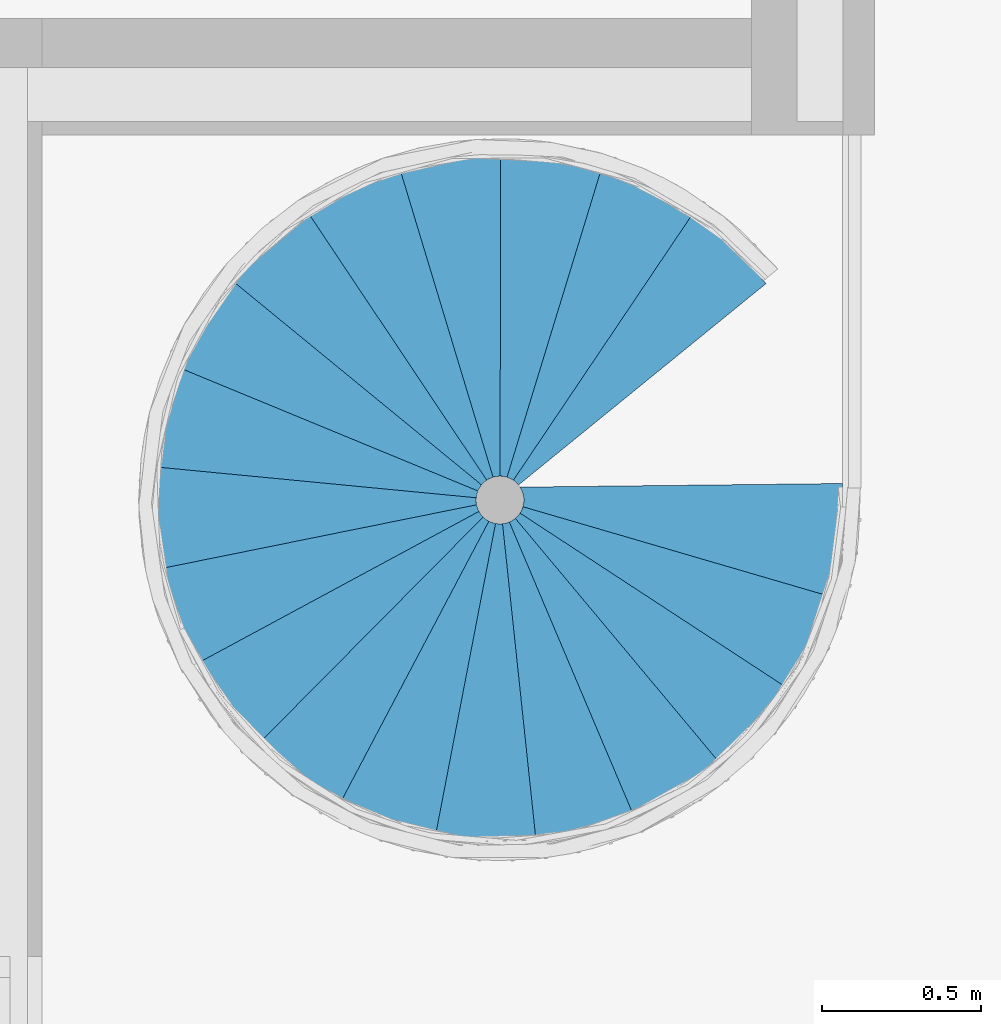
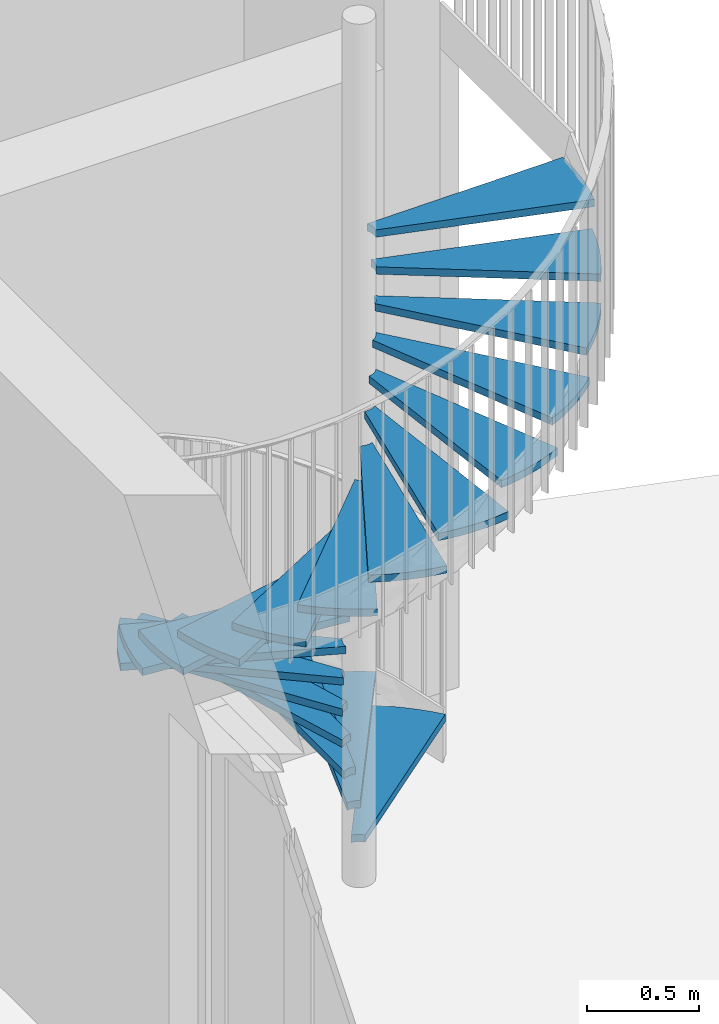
# One storey, part 14 of 21: 1 stair flight, 1 element without a shape of its own.
"""IFC2X3 building model written with IfcOpenShell, lengths in millimetres."""

from ifc_helpers import new_model, entity, si_unit, converted_unit, derived_unit, direction, frame, frame_2d, origin, place, context, subcontext, project, spatial, polyline, circle_curve, parameter, trimmed, segment, composite_curve, outline, extrude, material, element, aggregate, save


model = new_model("IFC2X3")

# Units and contexts
model_context = context("Model", 3, precision=0.01, world=origin(), true_north=direction((6.12303176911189e-17, 1.0)))
body_context = subcontext(model_context, "Body", "Model", "MODEL_VIEW")
ifc_project = project(units=[si_unit("LENGTHUNIT", "METRE", prefix="MILLI"), si_unit("AREAUNIT", "SQUARE_METRE"), si_unit("VOLUMEUNIT", "CUBIC_METRE"), converted_unit("PLANEANGLEUNIT", "DEGREE", entity("IfcRatioMeasure", 0.0174532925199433), si_unit("PLANEANGLEUNIT", "RADIAN"), dimensions=[0, 0, 0, 0, 0, 0, 0]), si_unit("MASSUNIT", "GRAM", prefix="KILO"), derived_unit("MASSDENSITYUNIT", [(si_unit("MASSUNIT", "GRAM", prefix="KILO"), 1), (si_unit("LENGTHUNIT", "METRE"), -3)]), si_unit("TIMEUNIT", "SECOND"), si_unit("FREQUENCYUNIT", "HERTZ"), si_unit("THERMODYNAMICTEMPERATUREUNIT", "DEGREE_CELSIUS"), derived_unit("THERMALTRANSMITTANCEUNIT", [(si_unit("MASSUNIT", "GRAM", prefix="KILO"), 1), (si_unit("THERMODYNAMICTEMPERATUREUNIT", "KELVIN"), -1), (si_unit("TIMEUNIT", "SECOND"), -3)]), derived_unit("VOLUMETRICFLOWRATEUNIT", [(si_unit("LENGTHUNIT", "METRE"), 3), (si_unit("TIMEUNIT", "SECOND"), -1)]), si_unit("ELECTRICCURRENTUNIT", "AMPERE"), si_unit("ELECTRICVOLTAGEUNIT", "VOLT"), si_unit("POWERUNIT", "WATT"), si_unit("FORCEUNIT", "NEWTON", prefix="KILO"), si_unit("ILLUMINANCEUNIT", "LUX"), si_unit("LUMINOUSFLUXUNIT", "LUMEN"), si_unit("LUMINOUSINTENSITYUNIT", "CANDELA"), derived_unit("USERDEFINED", [(si_unit("MASSUNIT", "GRAM", prefix="KILO"), -1), (si_unit("LENGTHUNIT", "METRE"), -2), (si_unit("TIMEUNIT", "SECOND"), 3), (si_unit("LUMINOUSFLUXUNIT", "LUMEN"), 1)]), derived_unit("LINEARVELOCITYUNIT", [(si_unit("LENGTHUNIT", "METRE"), 1), (si_unit("TIMEUNIT", "SECOND"), -1)]), si_unit("PRESSUREUNIT", "PASCAL"), derived_unit("USERDEFINED", [(si_unit("LENGTHUNIT", "METRE"), -2), (si_unit("MASSUNIT", "GRAM", prefix="KILO"), 1), (si_unit("TIMEUNIT", "SECOND"), -2)])], contexts=[model_context])

# Site, building, storey
site_placement = place(None, origin())
site = spatial("IfcSite", under=ifc_project, at=site_placement, Name="<Kadaster Gemeente>;<Kadaster nummer>;<Kadaster sectie>", CompositionType="ELEMENT")
building_placement = place(site_placement, origin())
building = spatial("IfcBuilding", under=site, at=building_placement, Name="JRCZ Middelburg", CompositionType="ELEMENT")
storey_placement = place(building_placement, origin())
storey = spatial("IfcBuildingStorey", under=building, at=storey_placement, Name="00 begane grond", CompositionType="ELEMENT", Elevation=0.0)

# Stair, stair flight
stair_placement = place(storey_placement, origin())
stair = element("IfcStair", 1, at=stair_placement, inside=storey, Name="Assembled Stair:Stair", ObjectType="Assembled Stair:RBM_24_ST_stalen vluchttrap", ShapeType="NOTDEFINED")
ifc_material = material(Name="RBM_h3_RVS")
stair_flight_placement = place(stair_placement, origin())
stair_flight = element("IfcStairFlight", 2, at=stair_flight_placement, material=ifc_material, Name="Assembled Stair:Stair:2925880 Run 1", ObjectType="Non-Monolithic Run:40 mm persrooster", NumberOfRiser=20, NumberOfTreads=19, RiserHeight=0.606955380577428, TreadLength=0.557742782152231, context=body_context, shape_type="SweptSolid", body=[
    extrude(outline(composite_curve([segment(polyline([(-371.303185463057, 348.093629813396), (211.752681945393, -483.102219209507)]), True, "CONTINUOUS"), segment(trimmed(circle_curve(frame_2d((-375.284208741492, 423.422843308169), x_axis=(1.0, 0.0)), 1080.0), [parameter(302.925814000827)], [parameter(321.969744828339)], True, "PARAMETER"), True, "CONTINUOUS"), segment(polyline([(475.416176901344, -241.940857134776), (-315.865673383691, 376.949446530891)]), True, "CONTINUOUS"), segment(trimmed(circle_curve(frame_2d((-375.284208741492, 423.422843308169), x_axis=(1.0, 0.0)), 75.4343353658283), [parameter(273.025172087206)], [parameter(321.969744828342)], True, "PARAMETER"), False, "CONTINUOUS")], self_intersect=False)), frame((19225.1762684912, 23464.5836777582, 145.0), z_axis=(0.0, 0.0, -1.0), x_axis=(0.999813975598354, 0.0192876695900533, 0.0)), (0.0, 0.0, -1.0), 40.0),
    extrude(outline(composite_curve([segment(polyline([(-253.911776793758, 441.094139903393), (61.9735131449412, -523.818896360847)]), True, "CONTINUOUS"), segment(trimmed(circle_curve(frame_2d((-235.795181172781, 514.320691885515), x_axis=(1.0, 0.0)), 1080.0), [parameter(286.004434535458)], [parameter(305.04836536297)], True, "PARAMETER"), True, "CONTINUOUS"), segment(polyline([(384.413942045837, -369.840290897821), (-192.475678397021, 452.565047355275)]), True, "CONTINUOUS"), segment(trimmed(circle_curve(frame_2d((-235.795181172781, 514.320691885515), x_axis=(1.0, 0.0)), 75.4343353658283), [parameter(256.103792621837)], [parameter(305.048365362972)], True, "PARAMETER"), False, "CONTINUOUS")], self_intersect=False)), frame((19083.9599816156, 23552.7741988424, 330.0), z_axis=(0.0, 0.0, -1.0), x_axis=(0.999813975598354, 0.0192876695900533, 0.0)), (0.0, 0.0, -1.0), 40.0),
    extrude(outline(composite_curve([segment(polyline([(-253.911776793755, 441.094139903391), (61.9735131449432, -523.818896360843)]), True, "CONTINUOUS"), segment(trimmed(circle_curve(frame_2d((-235.795181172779, 514.320691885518), x_axis=(1.0, 0.0)), 1080.0), [parameter(286.004434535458)], [parameter(305.04836536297)], True, "PARAMETER"), True, "CONTINUOUS"), segment(polyline([(384.413942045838, -369.840290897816), (-192.475678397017, 452.565047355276)]), True, "CONTINUOUS"), segment(trimmed(circle_curve(frame_2d((-235.795181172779, 514.320691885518), x_axis=(1.0, 0.0)), 75.4343353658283), [parameter(256.103792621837)], [parameter(305.048365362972)], True, "PARAMETER"), False, "CONTINUOUS")], self_intersect=False)), frame((18923.1889850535, 23596.0442156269, 515.0), z_axis=(0.0, 0.0, -1.0), x_axis=(0.950913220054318, 0.309457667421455, 0.0)), (0.0, 0.0, -1.0), 40.0),
    extrude(outline(composite_curve([segment(polyline([(-253.91177679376, 441.094139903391), (61.9735131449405, -523.818896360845)]), True, "CONTINUOUS"), segment(trimmed(circle_curve(frame_2d((-235.79518117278, 514.320691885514), x_axis=(1.0, 0.0)), 1080.0), [parameter(286.004434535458)], [parameter(305.04836536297)], True, "PARAMETER"), True, "CONTINUOUS"), segment(polyline([(384.413942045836, -369.840290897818), (-192.475678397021, 452.565047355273)]), True, "CONTINUOUS"), segment(trimmed(circle_curve(frame_2d((-235.79518117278, 514.320691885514), x_axis=(1.0, 0.0)), 75.4343353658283), [parameter(256.103792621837)], [parameter(305.048365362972)], True, "PARAMETER"), False, "CONTINUOUS")], self_intersect=False)), frame((18756.7844251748, 23590.646981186, 700.0), z_axis=(0.0, 0.0, -1.0), x_axis=(0.819672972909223, 0.572831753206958, 0.0)), (0.0, 0.0, -1.0), 40.0),
    extrude(outline(composite_curve([segment(polyline([(-253.911776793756, 441.094139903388), (61.9735131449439, -523.818896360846)]), True, "CONTINUOUS"), segment(trimmed(circle_curve(frame_2d((-235.795181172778, 514.320691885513), x_axis=(1.0, 0.0)), 1080.0), [parameter(286.004434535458)], [parameter(305.04836536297)], True, "PARAMETER"), True, "CONTINUOUS"), segment(polyline([(384.413942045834, -369.840290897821), (-192.475678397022, 452.565047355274)]), True, "CONTINUOUS"), segment(trimmed(circle_curve(frame_2d((-235.795181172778, 514.320691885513), x_axis=(1.0, 0.0)), 75.4343353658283), [parameter(256.103792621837)], [parameter(305.048365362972)], True, "PARAMETER"), False, "CONTINUOUS")], self_intersect=False)), frame((18599.155258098, 23537.0498415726, 885.0), z_axis=(0.0, 0.0, -1.0), x_axis=(0.617457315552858, 0.786604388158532, 0.0)), (0.0, 0.0, -1.0), 40.0),
    extrude(outline(composite_curve([segment(polyline([(-253.911776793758, 441.094139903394), (61.9735131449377, -523.818896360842)]), True, "CONTINUOUS"), segment(trimmed(circle_curve(frame_2d((-235.795181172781, 514.320691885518), x_axis=(1.0, 0.0)), 1080.0), [parameter(286.004434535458)], [parameter(305.04836536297)], True, "PARAMETER"), True, "CONTINUOUS"), segment(polyline([(384.413942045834, -369.840290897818), (-192.475678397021, 452.565047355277)]), True, "CONTINUOUS"), segment(trimmed(circle_curve(frame_2d((-235.795181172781, 514.320691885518), x_axis=(1.0, 0.0)), 75.4343353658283), [parameter(256.103792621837)], [parameter(305.048365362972)], True, "PARAMETER"), False, "CONTINUOUS")], self_intersect=False)), frame((18463.9505794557, 23439.8937683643, 1070.0), z_axis=(0.0, 0.0, -1.0), x_axis=(0.361776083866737, 0.932265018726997, 0.0)), (0.0, 0.0, -1.0), 40.0),
    extrude(outline(composite_curve([segment(polyline([(-253.911776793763, 441.094139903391), (61.9735131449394, -523.818896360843)]), True, "CONTINUOUS"), segment(trimmed(circle_curve(frame_2d((-235.795181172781, 514.320691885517), x_axis=(1.0, 0.0)), 1080.0), [parameter(286.004434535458)], [parameter(305.04836536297)], True, "PARAMETER"), True, "CONTINUOUS"), segment(polyline([(384.413942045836, -369.84029089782), (-192.475678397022, 452.565047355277)]), True, "CONTINUOUS"), segment(trimmed(circle_curve(frame_2d((-235.795181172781, 514.320691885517), x_axis=(1.0, 0.0)), 75.4343353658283), [parameter(256.103792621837)], [parameter(305.048365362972)], True, "PARAMETER"), False, "CONTINUOUS")], self_intersect=False)), frame((18362.8777504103, 23307.5914973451, 1255.0), z_axis=(0.0, 0.0, -1.0), x_axis=(0.0747686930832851, 0.997200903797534, 0.0)), (0.0, 0.0, -1.0), 40.0000000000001),
    extrude(outline(composite_curve([segment(polyline([(-253.911776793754, 441.094139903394), (61.973513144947, -523.818896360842)]), True, "CONTINUOUS"), segment(trimmed(circle_curve(frame_2d((-235.795181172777, 514.320691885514), x_axis=(1.0, 0.0)), 1080.0), [parameter(286.004434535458)], [parameter(305.04836536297)], True, "PARAMETER"), True, "CONTINUOUS"), segment(polyline([(384.413942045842, -369.840290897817), (-192.475678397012, 452.565047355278)]), True, "CONTINUOUS"), segment(trimmed(circle_curve(frame_2d((-235.795181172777, 514.320691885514), x_axis=(1.0, 0.0)), 75.4343353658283), [parameter(256.103792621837)], [parameter(305.048365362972)], True, "PARAMETER"), False, "CONTINUOUS")], self_intersect=False)), frame((18304.6886582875, 23151.5990704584, 1440.0), z_axis=(0.0, 0.0, -1.0), x_axis=(-0.21871291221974, 0.975789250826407, 0.0)), (0.0, 0.0, -1.0), 40.0000000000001),
    extrude(outline(composite_curve([segment(polyline([(-253.911776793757, 441.094139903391), (61.9735131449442, -523.818896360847)]), True, "CONTINUOUS"), segment(trimmed(circle_curve(frame_2d((-235.79518117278, 514.320691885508), x_axis=(1.0, 0.0)), 1080.0), [parameter(286.004434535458)], [parameter(305.04836536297)], True, "PARAMETER"), True, "CONTINUOUS"), segment(polyline([(384.413942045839, -369.840290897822), (-192.47567839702, 452.565047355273)]), True, "CONTINUOUS"), segment(trimmed(circle_curve(frame_2d((-235.79518117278, 514.320691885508), x_axis=(1.0, 0.0)), 75.4343353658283), [parameter(256.103792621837)], [parameter(305.048365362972)], True, "PARAMETER"), False, "CONTINUOUS")], self_intersect=False)), frame((18294.4218914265, 22985.4238581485, 1625.0), z_axis=(0.0, 0.0, -1.0), x_axis=(-0.493256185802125, 0.869884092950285, 0.0)), (0.0, 0.0, -1.0), 40.0000000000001),
    extrude(outline(composite_curve([segment(polyline([(576.788844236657, -194.342837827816), (-325.88141948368, 270.444295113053)]), True, "CONTINUOUS"), segment(trimmed(circle_curve(frame_2d((615.338386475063, -259.183193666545), x_axis=(1.0, 0.0)), 1080.0), [parameter(150.633398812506)], [parameter(152.755950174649)], True, "PARAMETER"), True, "CONTINUOUS"), segment(trimmed(circle_curve(frame_2d((615.338386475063, -259.183193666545), x_axis=(1.0, 0.0)), 1080.0), [parameter(152.755950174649)], [parameter(169.677329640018)], True, "PARAMETER"), True, "CONTINUOUS"), segment(polyline([(-447.180964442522, -65.6563765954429), (541.125015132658, -245.666002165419)]), True, "CONTINUOUS"), segment(trimmed(circle_curve(frame_2d((615.338386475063, -259.183193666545), x_axis=(1.0, 0.0)), 75.4343353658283), [parameter(120.732756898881)], [parameter(169.677329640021)], True, "PARAMETER"), False, "CONTINUOUS")], self_intersect=False)), frame((18247.9038329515, 22762.9978208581, 1810.0), z_axis=(0.0, 0.0, -1.0), x_axis=(0.999813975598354, 0.0192876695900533, 0.0)), (0.0, 0.0, -1.0), 40.0000000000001),
    extrude(outline(composite_curve([segment(polyline([(429.887042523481, -272.45616403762), (-298.421580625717, 434.938516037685)]), True, "CONTINUOUS"), segment(trimmed(circle_curve(frame_2d((447.895201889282, -345.709458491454), x_axis=(1.0, 0.0)), 1080.0), [parameter(133.712019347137)], [parameter(152.755950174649)], True, "PARAMETER"), True, "CONTINUOUS"), segment(polyline([(-512.294660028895, 148.694656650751), (380.829198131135, -311.177008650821)]), True, "CONTINUOUS"), segment(trimmed(circle_curve(frame_2d((447.895201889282, -345.709458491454), x_axis=(1.0, 0.0)), 75.4343353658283), [parameter(103.811377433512)], [parameter(152.755950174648)], True, "PARAMETER"), False, "CONTINUOUS")], self_intersect=False)), frame((18416.9847590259, 22679.7172408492, 1995.0), z_axis=(0.0, 0.0, -1.0), x_axis=(0.999813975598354, 0.0192876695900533, 0.0)), (0.0, 0.0, -1.0), 40.0000000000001),
    extrude(outline(composite_curve([segment(polyline([(429.887042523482, -272.456164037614), (-298.421580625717, 434.938516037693)]), True, "CONTINUOUS"), segment(trimmed(circle_curve(frame_2d((447.895201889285, -345.709458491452), x_axis=(1.0, 0.0)), 1080.0), [parameter(133.712019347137)], [parameter(152.755950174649)], True, "PARAMETER"), True, "CONTINUOUS"), segment(polyline([(-512.294660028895, 148.69465665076), (380.829198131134, -311.177008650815)]), True, "CONTINUOUS"), segment(trimmed(circle_curve(frame_2d((447.895201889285, -345.709458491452), x_axis=(1.0, 0.0)), 75.4343353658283), [parameter(103.811377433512)], [parameter(152.755950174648)], True, "PARAMETER"), False, "CONTINUOUS")], self_intersect=False)), frame((18539.2016856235, 22566.6569448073, 2180.0), z_axis=(0.0, 0.0, -1.0), x_axis=(0.950913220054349, 0.30945766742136, 0.0)), (0.0, 0.0, -1.0), 40.0000000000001),
    extrude(outline(composite_curve([segment(polyline([(429.887042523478, -272.45616403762), (-298.421580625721, 434.938516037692)]), True, "CONTINUOUS"), segment(trimmed(circle_curve(frame_2d((447.895201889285, -345.709458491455), x_axis=(1.0, 0.0)), 1080.0), [parameter(133.712019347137)], [parameter(152.755950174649)], True, "PARAMETER"), True, "CONTINUOUS"), segment(polyline([(-512.294660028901, 148.694656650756), (380.829198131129, -311.17700865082)]), True, "CONTINUOUS"), segment(trimmed(circle_curve(frame_2d((447.895201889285, -345.709458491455), x_axis=(1.0, 0.0)), 75.4343353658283), [parameter(103.811377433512)], [parameter(152.755950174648)], True, "PARAMETER"), False, "CONTINUOUS")], self_intersect=False)), frame((18689.0344751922, 22494.0639502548, 2365.0), z_axis=(0.0, 0.0, -1.0), x_axis=(0.819672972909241, 0.572831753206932, 0.0)), (0.0, 0.0, -1.0), 40.0000000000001),
    extrude(outline(composite_curve([segment(polyline([(429.887042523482, -272.456164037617), (-298.421580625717, 434.938516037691)]), True, "CONTINUOUS"), segment(trimmed(circle_curve(frame_2d((447.895201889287, -345.709458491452), x_axis=(1.0, 0.0)), 1080.0), [parameter(133.712019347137)], [parameter(152.755950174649)], True, "PARAMETER"), True, "CONTINUOUS"), segment(polyline([(-512.294660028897, 148.694656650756), (380.829198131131, -311.177008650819)]), True, "CONTINUOUS"), segment(trimmed(circle_curve(frame_2d((447.895201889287, -345.709458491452), x_axis=(1.0, 0.0)), 75.4343353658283), [parameter(103.811377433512)], [parameter(152.755950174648)], True, "PARAMETER"), False, "CONTINUOUS")], self_intersect=False)), frame((18853.5091197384, 22468.2240781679, 2550.0), z_axis=(0.0, 0.0, -1.0), x_axis=(0.617457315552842, 0.786604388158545, 0.0)), (0.0, 0.0, -1.0), 40.0000000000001),
    extrude(outline(composite_curve([segment(polyline([(429.88704252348, -272.456164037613), (-298.421580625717, 434.938516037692)]), True, "CONTINUOUS"), segment(trimmed(circle_curve(frame_2d((447.895201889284, -345.70945849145), x_axis=(1.0, 0.0)), 1080.0), [parameter(133.712019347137)], [parameter(152.755950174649)], True, "PARAMETER"), True, "CONTINUOUS"), segment(polyline([(-512.294660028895, 148.694656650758), (380.829198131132, -311.177008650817)]), True, "CONTINUOUS"), segment(trimmed(circle_curve(frame_2d((447.895201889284, -345.70945849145), x_axis=(1.0, 0.0)), 75.4343353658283), [parameter(103.811377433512)], [parameter(152.755950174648)], True, "PARAMETER"), False, "CONTINUOUS")], self_intersect=False)), frame((19018.3837743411, 22491.3748007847, 2735.0), z_axis=(0.0, 0.0, -1.0), x_axis=(0.361776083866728, 0.932265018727, 0.0)), (0.0, 0.0, -1.0), 40.0000000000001),
    extrude(outline(composite_curve([segment(polyline([(429.887042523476, -272.456164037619), (-298.421580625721, 434.938516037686)]), True, "CONTINUOUS"), segment(trimmed(circle_curve(frame_2d((447.895201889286, -345.709458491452), x_axis=(1.0, 0.0)), 1080.0), [parameter(133.712019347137)], [parameter(152.755950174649)], True, "PARAMETER"), True, "CONTINUOUS"), segment(polyline([(-512.294660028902, 148.694656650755), (380.829198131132, -311.177008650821)]), True, "CONTINUOUS"), segment(trimmed(circle_curve(frame_2d((447.895201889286, -345.709458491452), x_axis=(1.0, 0.0)), 75.4343353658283), [parameter(103.811377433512)], [parameter(152.755950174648)], True, "PARAMETER"), False, "CONTINUOUS")], self_intersect=False)), frame((19169.3819572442, 22561.511499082, 2920.0), z_axis=(0.0, 0.0, -1.0), x_axis=(0.0747686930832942, 0.997200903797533, 0.0)), (0.0, 0.0, -1.0), 40.0000000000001),
    extrude(outline(composite_curve([segment(polyline([(429.88704252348, -272.456164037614), (-298.421580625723, 434.938516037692)]), True, "CONTINUOUS"), segment(trimmed(circle_curve(frame_2d((447.895201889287, -345.709458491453), x_axis=(1.0, 0.0)), 1080.0), [parameter(133.712019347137)], [parameter(152.755950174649)], True, "PARAMETER"), True, "CONTINUOUS"), segment(polyline([(-512.294660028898, 148.694656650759), (380.82919813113, -311.177008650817)]), True, "CONTINUOUS"), segment(trimmed(circle_curve(frame_2d((447.895201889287, -345.709458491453), x_axis=(1.0, 0.0)), 75.4343353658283), [parameter(103.811377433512)], [parameter(152.755950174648)], True, "PARAMETER"), False, "CONTINUOUS")], self_intersect=False)), frame((19293.4287491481, 22672.5610425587, 3105.0), z_axis=(0.0, 0.0, -1.0), x_axis=(-0.218712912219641, 0.975789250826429, 0.0)), (0.0, 0.0, -1.0), 40.0000000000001),
    extrude(outline(composite_curve([segment(polyline([(429.887042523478, -272.456164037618), (-298.421580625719, 434.938516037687)]), True, "CONTINUOUS"), segment(trimmed(circle_curve(frame_2d((447.895201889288, -345.709458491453), x_axis=(1.0, 0.0)), 1080.0), [parameter(133.712019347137)], [parameter(152.755950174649)], True, "PARAMETER"), True, "CONTINUOUS"), segment(polyline([(-512.294660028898, 148.694656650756), (380.829198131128, -311.177008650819)]), True, "CONTINUOUS"), segment(trimmed(circle_curve(frame_2d((447.895201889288, -345.709458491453), x_axis=(1.0, 0.0)), 75.4343353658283), [parameter(103.811377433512)], [parameter(152.755950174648)], True, "PARAMETER"), False, "CONTINUOUS")], self_intersect=False)), frame((19379.7829493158, 22814.9076610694, 3290.0), z_axis=(0.0, 0.0, -1.0), x_axis=(-0.493256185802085, 0.869884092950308, 0.0)), (0.0, 0.0, -1.0), 40.0000000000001),
    extrude(outline(composite_curve([segment(polyline([(429.887042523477, -272.456164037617), (-298.421580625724, 434.938516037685)]), True, "CONTINUOUS"), segment(trimmed(circle_curve(frame_2d((447.895201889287, -345.709458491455), x_axis=(1.0, 0.0)), 1080.0), [parameter(133.712019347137)], [parameter(152.755950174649)], True, "PARAMETER"), True, "CONTINUOUS"), segment(polyline([(-512.294660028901, 148.694656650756), (380.82919813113, -311.177008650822)]), True, "CONTINUOUS"), segment(trimmed(circle_curve(frame_2d((447.895201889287, -345.709458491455), x_axis=(1.0, 0.0)), 75.4343353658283), [parameter(103.811377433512)], [parameter(152.755950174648)], True, "PARAMETER"), False, "CONTINUOUS")], self_intersect=False)), frame((19420.9671551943, 22976.2255735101, 3475.0), z_axis=(0.0, 0.0, -1.0), x_axis=(-0.725088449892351, 0.688655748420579, 0.0)), (0.0, 0.0, -1.0), 40.0000000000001),
])
aggregate(stair, [stair_flight])

save(model, "model.ifc")
